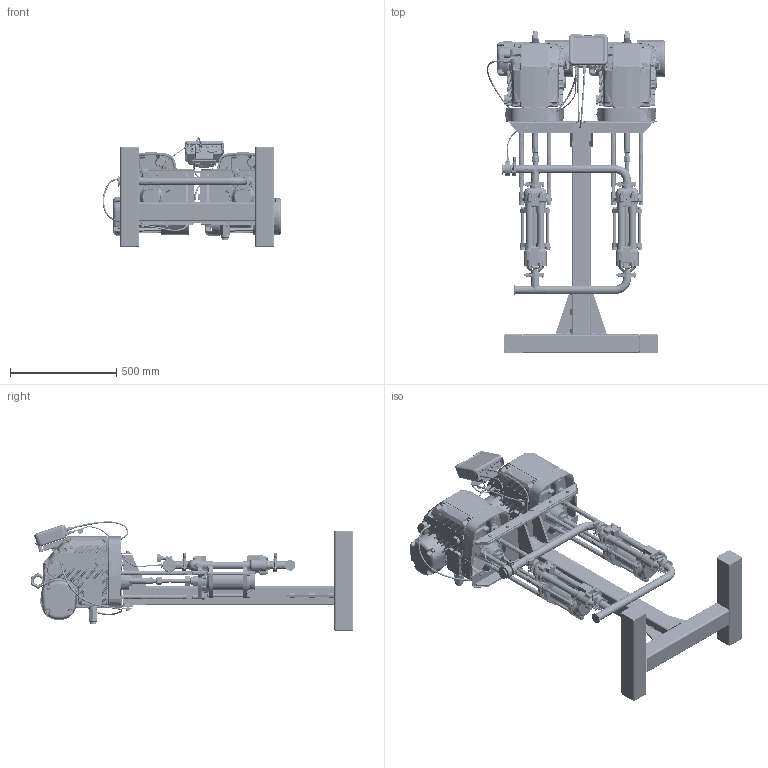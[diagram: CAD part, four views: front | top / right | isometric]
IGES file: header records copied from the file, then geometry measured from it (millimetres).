
Start section:  PTC IGES file: ec4961-en-e.igs
Global section: file name: ec4961-en-e.igs; native system: Creo Parametric by PTC Inc.; preprocessor: 2019030; author: qusrh3; organization: Unknown; date: 20200101.120420; units: inch
Bounding box: 838.85 x 1516.76 x 513.57 mm (x, y, z)
Surface area: 5895867.2 mm2 (no closed solid volume)
Topology: 0 solids, 0 shells, 11261 faces, 58469 edges, 58416 vertices
Faces by surface type: bspline 5983, revolution 5210, extrusion 68
